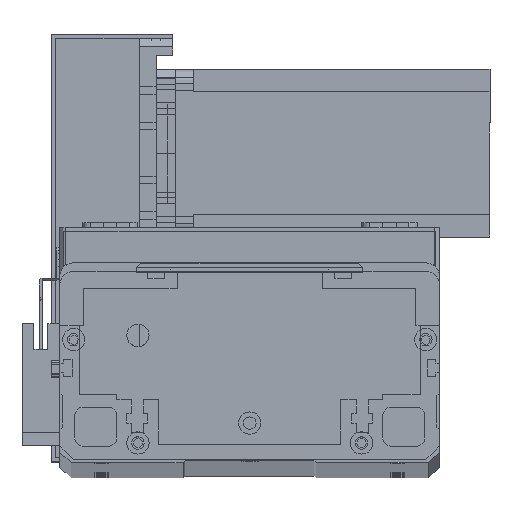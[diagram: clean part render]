
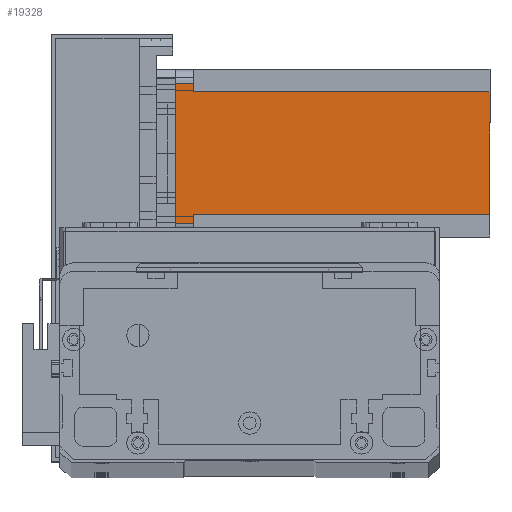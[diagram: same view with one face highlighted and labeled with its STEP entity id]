
A CAD part, top view. The second image highlights one B-rep face of the part: STEP entity #19328.
In plain terms, the highlighted planar face has unit normal (0, 0, 1) as drawn and (0, -1, 0) by its records, which use the part's own axes.
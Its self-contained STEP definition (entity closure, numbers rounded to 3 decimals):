
#27 = CARTESIAN_POINT ( 'NONE',  ( 52., 0., -112.5 ) ) ;
#514 = DIRECTION ( 'NONE',  ( 0., 0., 1. ) ) ;
#598 = CARTESIAN_POINT ( 'NONE',  ( 55., 0., -112.5 ) ) ;
#1050 = DIRECTION ( 'NONE',  ( 0., 0., -1. ) ) ;
#1780 = DIRECTION ( 'NONE',  ( 0., 0., 1. ) ) ;
#1843 = VERTEX_POINT ( 'NONE', #25793 ) ;
#2102 = VERTEX_POINT ( 'NONE', #27418 ) ;
#2658 = CARTESIAN_POINT ( 'NONE',  ( 8., 0., -112.5 ) ) ;
#2848 = CARTESIAN_POINT ( 'NONE',  ( 8., 0., -6.5 ) ) ;
#4960 = LINE ( 'NONE', #2658, #23516 ) ;
#5170 = CARTESIAN_POINT ( 'NONE',  ( 0., 0., -112.5 ) ) ;
#6248 = VERTEX_POINT ( 'NONE', #6538 ) ;
#6285 = ORIENTED_EDGE ( 'NONE', *, *, #12079, .T. ) ;
#6538 = CARTESIAN_POINT ( 'NONE',  ( 55., 0., -6.5 ) ) ;
#7572 = AXIS2_PLACEMENT_3D ( 'NONE', #27574, #15728, #1050 ) ;
#7782 = LINE ( 'NONE', #21084, #26175 ) ;
#7815 = CARTESIAN_POINT ( 'NONE',  ( 52., 0., -6.5 ) ) ;
#8230 = DIRECTION ( 'NONE',  ( 1., 0., 0. ) ) ;
#9039 = ORIENTED_EDGE ( 'NONE', *, *, #16933, .T. ) ;
#9390 = VECTOR ( 'NONE', #8230, 1000. ) ;
#10559 = VERTEX_POINT ( 'NONE', #21266 ) ;
#10886 = PLANE ( 'NONE',  #7572 ) ;
#11182 = VERTEX_POINT ( 'NONE', #7815 ) ;
#11293 = ORIENTED_EDGE ( 'NONE', *, *, #18991, .F. ) ;
#12079 = EDGE_CURVE ( 'NONE', #11182, #6248, #30313, .T. ) ;
#12432 = VERTEX_POINT ( 'NONE', #17384 ) ;
#12821 = VERTEX_POINT ( 'NONE', #2848 ) ;
#13031 = DIRECTION ( 'NONE',  ( -1., 0., 0. ) ) ;
#13092 = CARTESIAN_POINT ( 'NONE',  ( 8., 0., -6.5 ) ) ;
#13719 = EDGE_CURVE ( 'NONE', #6248, #2102, #25851, .T. ) ;
#14505 = EDGE_CURVE ( 'NONE', #12432, #1843, #7782, .T. ) ;
#14637 = VECTOR ( 'NONE', #514, 1000. ) ;
#15097 = EDGE_CURVE ( 'NONE', #12821, #1843, #20618, .T. ) ;
#15728 = DIRECTION ( 'NONE',  ( 0., -1., 0. ) ) ;
#15933 = EDGE_CURVE ( 'NONE', #10559, #12821, #4960, .T. ) ;
#16658 = LINE ( 'NONE', #27, #28547 ) ;
#16760 = EDGE_LOOP ( 'NONE', ( #6285, #24436, #11293, #25546, #29188, #30666, #9039, #23350 ) ) ;
#16933 = EDGE_CURVE ( 'NONE', #10559, #26528, #18230, .T. ) ;
#17384 = CARTESIAN_POINT ( 'NONE',  ( 5., 0., 0. ) ) ;
#17557 = EDGE_CURVE ( 'NONE', #11182, #26528, #16658, .T. ) ;
#18230 = LINE ( 'NONE', #5170, #30777 ) ;
#18501 = VECTOR ( 'NONE', #29799, 1000. ) ;
#18991 = EDGE_CURVE ( 'NONE', #12432, #2102, #24450, .T. ) ;
#19328 = ADVANCED_FACE ( 'NONE', ( #19592 ), #10886, .T. ) ;
#19592 = FACE_OUTER_BOUND ( 'NONE', #16760, .T. ) ;
#20287 = CARTESIAN_POINT ( 'NONE',  ( 0., 0., 0. ) ) ;
#20618 = LINE ( 'NONE', #13092, #27600 ) ;
#20988 = DIRECTION ( 'NONE',  ( 0., 0., -1. ) ) ;
#21084 = CARTESIAN_POINT ( 'NONE',  ( 5., 0., -112.5 ) ) ;
#21266 = CARTESIAN_POINT ( 'NONE',  ( 8., 0., -112.5 ) ) ;
#22158 = DIRECTION ( 'NONE',  ( 1., 0., 0. ) ) ;
#23350 = ORIENTED_EDGE ( 'NONE', *, *, #17557, .F. ) ;
#23516 = VECTOR ( 'NONE', #1780, 1000. ) ;
#24436 = ORIENTED_EDGE ( 'NONE', *, *, #13719, .T. ) ;
#24450 = LINE ( 'NONE', #20287, #9390 ) ;
#25546 = ORIENTED_EDGE ( 'NONE', *, *, #14505, .T. ) ;
#25793 = CARTESIAN_POINT ( 'NONE',  ( 5., 0., -6.5 ) ) ;
#25851 = LINE ( 'NONE', #598, #14637 ) ;
#26175 = VECTOR ( 'NONE', #20988, 1000. ) ;
#26528 = VERTEX_POINT ( 'NONE', #26600 ) ;
#26600 = CARTESIAN_POINT ( 'NONE',  ( 52., 0., -112.5 ) ) ;
#27418 = CARTESIAN_POINT ( 'NONE',  ( 55., 0., 0. ) ) ;
#27574 = CARTESIAN_POINT ( 'NONE',  ( 0., 0., -112.5 ) ) ;
#27600 = VECTOR ( 'NONE', #13031, 1000. ) ;
#28547 = VECTOR ( 'NONE', #28975, 1000. ) ;
#28975 = DIRECTION ( 'NONE',  ( 0., 0., -1. ) ) ;
#29188 = ORIENTED_EDGE ( 'NONE', *, *, #15097, .F. ) ;
#29799 = DIRECTION ( 'NONE',  ( 1., 0., 0. ) ) ;
#30313 = LINE ( 'NONE', #30569, #18501 ) ;
#30569 = CARTESIAN_POINT ( 'NONE',  ( 52., 0., -6.5 ) ) ;
#30666 = ORIENTED_EDGE ( 'NONE', *, *, #15933, .F. ) ;
#30777 = VECTOR ( 'NONE', #22158, 1000. ) ;
